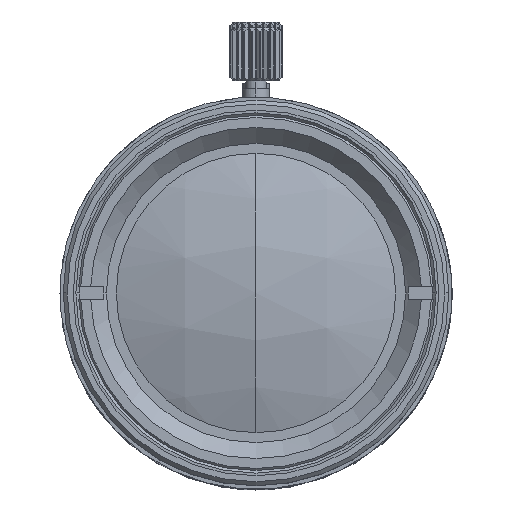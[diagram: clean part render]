
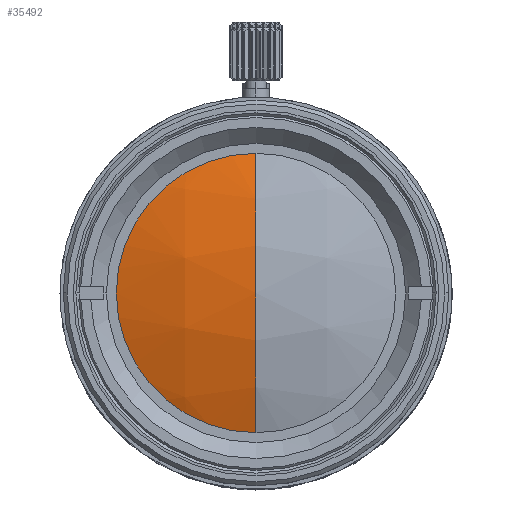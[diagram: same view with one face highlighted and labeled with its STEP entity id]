
A CAD part, top view. The second image highlights one B-rep face of the part: STEP entity #35492.
In plain terms, the highlighted spherical face has radius 30.8 mm.
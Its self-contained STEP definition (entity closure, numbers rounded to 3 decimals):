
#116 = SPHERICAL_SURFACE ( 'NONE', #33543, 30.8 ) ;
#2685 = DIRECTION ( 'NONE',  ( -1., 0., 0. ) ) ;
#2892 = EDGE_LOOP ( 'NONE', ( #18618, #12264, #39407 ) ) ;
#3264 = AXIS2_PLACEMENT_3D ( 'NONE', #5702, #28058, #8919 ) ;
#5702 = CARTESIAN_POINT ( 'NONE',  ( 0., 0., 63.015 ) ) ;
#7311 = CIRCLE ( 'NONE', #3264, 10.508 ) ;
#8919 = DIRECTION ( 'NONE',  ( 1., 0., 0. ) ) ;
#11132 = CARTESIAN_POINT ( 'NONE',  ( 0., 0., 64.863 ) ) ;
#12264 = ORIENTED_EDGE ( 'NONE', *, *, #34474, .T. ) ;
#12652 = DIRECTION ( 'NONE',  ( -1., 0., 0. ) ) ;
#13330 = VERTEX_POINT ( 'NONE', #11132 ) ;
#14921 = EDGE_CURVE ( 'NONE', #18894, #17818, #7311, .T. ) ;
#16119 = FACE_OUTER_BOUND ( 'NONE', #2892, .T. ) ;
#17728 = CARTESIAN_POINT ( 'NONE',  ( 0., 0., 34.063 ) ) ;
#17818 = VERTEX_POINT ( 'NONE', #22857 ) ;
#18618 = ORIENTED_EDGE ( 'NONE', *, *, #14921, .T. ) ;
#18894 = VERTEX_POINT ( 'NONE', #33639 ) ;
#19735 = AXIS2_PLACEMENT_3D ( 'NONE', #17728, #40005, #20960 ) ;
#20960 = DIRECTION ( 'NONE',  ( 0., 0., -1. ) ) ;
#21836 = CARTESIAN_POINT ( 'NONE',  ( 0., 0., 34.063 ) ) ;
#22857 = CARTESIAN_POINT ( 'NONE',  ( 0., -10.508, 63.015 ) ) ;
#23462 = EDGE_CURVE ( 'NONE', #18894, #13330, #26011, .T. ) ;
#24677 = CIRCLE ( 'NONE', #26605, 30.8 ) ;
#25037 = DIRECTION ( 'NONE',  ( 0., -1., 0. ) ) ;
#26011 = CIRCLE ( 'NONE', #19735, 30.8 ) ;
#26605 = AXIS2_PLACEMENT_3D ( 'NONE', #21836, #2685, #25037 ) ;
#28058 = DIRECTION ( 'NONE',  ( 0., 0., 1. ) ) ;
#33543 = AXIS2_PLACEMENT_3D ( 'NONE', #41212, #12652, #34946 ) ;
#33639 = CARTESIAN_POINT ( 'NONE',  ( 0., 10.508, 63.015 ) ) ;
#34474 = EDGE_CURVE ( 'NONE', #17818, #13330, #24677, .T. ) ;
#34946 = DIRECTION ( 'NONE',  ( 0., 1., 0. ) ) ;
#35492 = ADVANCED_FACE ( 'NONE', ( #16119 ), #116, .T. ) ;
#39407 = ORIENTED_EDGE ( 'NONE', *, *, #23462, .F. ) ;
#40005 = DIRECTION ( 'NONE',  ( 1., 0., 0. ) ) ;
#41212 = CARTESIAN_POINT ( 'NONE',  ( 0., 0., 34.063 ) ) ;
